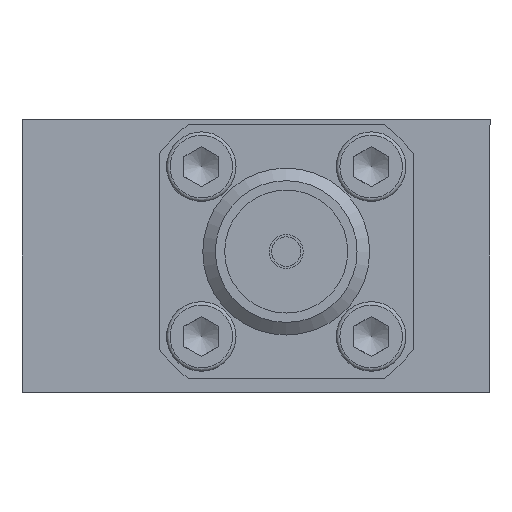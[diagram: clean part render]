
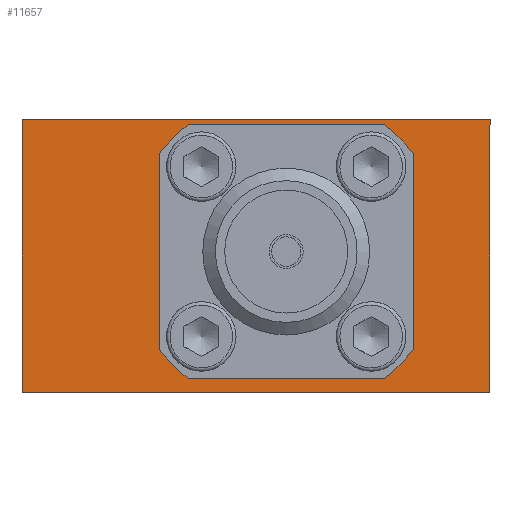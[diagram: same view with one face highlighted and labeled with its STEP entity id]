
A CAD part, left-side view. The second image highlights one B-rep face of the part: STEP entity #11657.
In plain terms, the highlighted planar face has unit normal (-1, 0, 0).
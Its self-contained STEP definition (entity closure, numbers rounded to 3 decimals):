
#129=LINE('',#14953,#889);
#133=LINE('',#14963,#893);
#136=LINE('',#14971,#896);
#139=LINE('',#14979,#899);
#255=LINE('',#15672,#1015);
#761=LINE('',#16748,#1521);
#765=LINE('',#16757,#1525);
#766=LINE('',#16758,#1526);
#889=VECTOR('',#12707,1000.);
#893=VECTOR('',#12717,1000.);
#896=VECTOR('',#12726,1000.);
#899=VECTOR('',#12735,1000.);
#1015=VECTOR('',#13247,1000.);
#1521=VECTOR('',#14183,1000.);
#1525=VECTOR('',#14189,1000.);
#1526=VECTOR('',#14190,1000.);
#1959=PLANE('',#12317);
#3643=ORIENTED_EDGE('',*,*,#4203,.F.);
#3644=ORIENTED_EDGE('',*,*,#4205,.F.);
#3645=ORIENTED_EDGE('',*,*,#4207,.F.);
#3646=ORIENTED_EDGE('',*,*,#4209,.F.);
#3647=ORIENTED_EDGE('',*,*,#4211,.F.);
#3648=ORIENTED_EDGE('',*,*,#4196,.F.);
#3649=ORIENTED_EDGE('',*,*,#4199,.F.);
#3650=ORIENTED_EDGE('',*,*,#4201,.F.);
#3651=ORIENTED_EDGE('',*,*,#4973,.F.);
#3652=ORIENTED_EDGE('',*,*,#4445,.T.);
#3653=ORIENTED_EDGE('',*,*,#4974,.T.);
#3654=ORIENTED_EDGE('',*,*,#4969,.F.);
#4196=EDGE_CURVE('',#5252,#5253,#129,.T.);
#4199=EDGE_CURVE('',#5254,#5252,#6020,.T.);
#4201=EDGE_CURVE('',#5255,#5254,#133,.T.);
#4203=EDGE_CURVE('',#5256,#5255,#6021,.T.);
#4205=EDGE_CURVE('',#5257,#5256,#136,.T.);
#4207=EDGE_CURVE('',#5258,#5257,#6022,.T.);
#4209=EDGE_CURVE('',#5259,#5258,#139,.T.);
#4211=EDGE_CURVE('',#5253,#5259,#6023,.T.);
#4445=EDGE_CURVE('',#5446,#5445,#255,.T.);
#4969=EDGE_CURVE('',#5801,#5802,#761,.T.);
#4973=EDGE_CURVE('',#5446,#5801,#765,.T.);
#4974=EDGE_CURVE('',#5445,#5802,#766,.T.);
#5252=VERTEX_POINT('',#14954);
#5253=VERTEX_POINT('',#14955);
#5254=VERTEX_POINT('',#14960);
#5255=VERTEX_POINT('',#14964);
#5256=VERTEX_POINT('',#14968);
#5257=VERTEX_POINT('',#14972);
#5258=VERTEX_POINT('',#14976);
#5259=VERTEX_POINT('',#14980);
#5445=VERTEX_POINT('',#15671);
#5446=VERTEX_POINT('',#15673);
#5801=VERTEX_POINT('',#16749);
#5802=VERTEX_POINT('',#16750);
#6020=CIRCLE('',#11896,6.);
#6021=CIRCLE('',#11899,6.);
#6022=CIRCLE('',#11902,6.);
#6023=CIRCLE('',#11905,6.);
#6707=EDGE_LOOP('',(#3643,#3644,#3645,#3646,#3647,#3648,#3649,#3650));
#6708=EDGE_LOOP('',(#3651,#3652,#3653,#3654));
#7417=FACE_BOUND('',#6707,.T.);
#7418=FACE_BOUND('',#6708,.T.);
#11657=ADVANCED_FACE('',(#7417,#7418),#1959,.T.);
#11896=AXIS2_PLACEMENT_3D('',#14959,#12712,#12713);
#11899=AXIS2_PLACEMENT_3D('',#14967,#12721,#12722);
#11902=AXIS2_PLACEMENT_3D('',#14975,#12730,#12731);
#11905=AXIS2_PLACEMENT_3D('',#14983,#12739,#12740);
#12317=AXIS2_PLACEMENT_3D('',#16756,#14187,#14188);
#12707=DIRECTION('',(0.,0.,-1.));
#12712=DIRECTION('',(-1.,0.,0.));
#12713=DIRECTION('',(0.,-1.,0.));
#12717=DIRECTION('',(0.,1.,0.));
#12721=DIRECTION('',(-1.,0.,0.));
#12722=DIRECTION('',(0.,-1.,0.));
#12726=DIRECTION('',(0.,0.,1.));
#12730=DIRECTION('',(-1.,0.,0.));
#12731=DIRECTION('',(0.,-1.,0.));
#12735=DIRECTION('',(0.,-1.,0.));
#12739=DIRECTION('',(-1.,0.,0.));
#12740=DIRECTION('',(0.,-1.,0.));
#13247=DIRECTION('',(0.,1.,0.));
#14183=DIRECTION('',(0.,1.,0.));
#14187=DIRECTION('',(-1.,0.,0.));
#14188=DIRECTION('',(0.,0.,1.));
#14189=DIRECTION('',(0.,0.,-1.));
#14190=DIRECTION('',(0.,0.,-1.));
#14953=CARTESIAN_POINT('',(-12.3,3.62,8.731));
#14954=CARTESIAN_POINT('',(-12.3,3.62,8.731));
#14955=CARTESIAN_POINT('',(-12.3,3.62,1.4));
#14959=CARTESIAN_POINT('',(-12.3,-1.13,5.065));
#14960=CARTESIAN_POINT('',(-12.3,2.536,9.815));
#14963=CARTESIAN_POINT('',(-12.3,-4.796,9.815));
#14964=CARTESIAN_POINT('',(-12.3,-4.796,9.815));
#14967=CARTESIAN_POINT('',(-12.3,-1.13,5.065));
#14968=CARTESIAN_POINT('',(-12.3,-5.88,8.731));
#14971=CARTESIAN_POINT('',(-12.3,-5.88,1.4));
#14972=CARTESIAN_POINT('',(-12.3,-5.88,1.4));
#14975=CARTESIAN_POINT('',(-12.3,-1.13,5.065));
#14976=CARTESIAN_POINT('',(-12.3,-4.796,0.315));
#14979=CARTESIAN_POINT('',(-12.3,2.536,0.315));
#14980=CARTESIAN_POINT('',(-12.3,2.536,0.315));
#14983=CARTESIAN_POINT('',(-12.3,-1.13,5.065));
#15671=CARTESIAN_POINT('',(-12.3,8.75,10.));
#15672=CARTESIAN_POINT('',(-12.3,-8.75,10.));
#15673=CARTESIAN_POINT('',(-12.3,-8.75,10.));
#16748=CARTESIAN_POINT('',(-12.3,-8.75,-0.2));
#16749=CARTESIAN_POINT('',(-12.3,-8.75,-0.2));
#16750=CARTESIAN_POINT('',(-12.3,8.75,-0.2));
#16756=CARTESIAN_POINT('',(-12.3,-8.75,4.8));
#16757=CARTESIAN_POINT('',(-12.3,-8.75,4.8));
#16758=CARTESIAN_POINT('',(-12.3,8.75,4.8));
